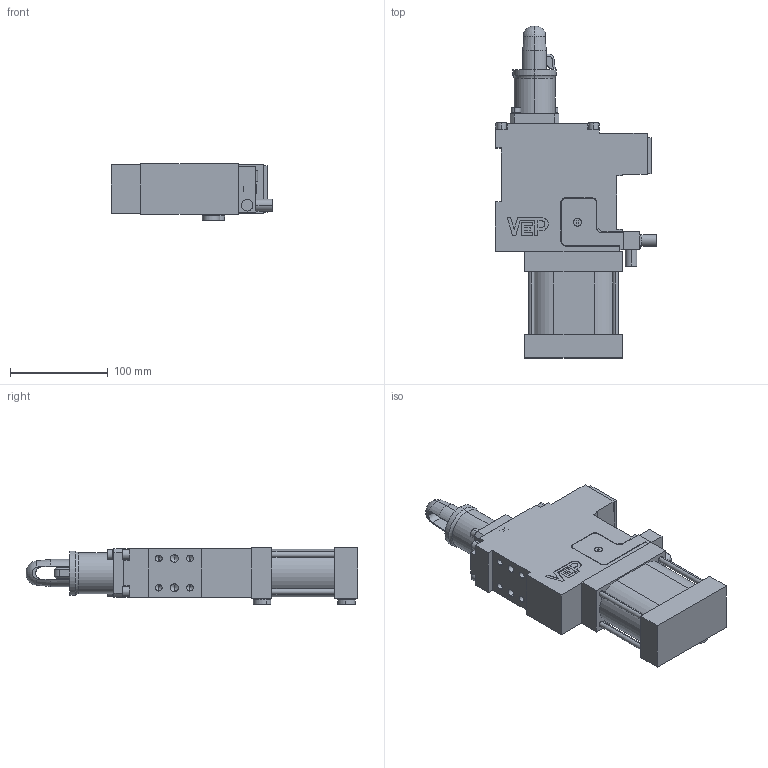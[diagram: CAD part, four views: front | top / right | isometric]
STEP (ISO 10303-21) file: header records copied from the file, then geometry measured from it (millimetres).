
FILE_DESCRIPTION (( 'STEP AP214' ), '1' );
FILE_NAME ('dca63lavi_00000xxx.STEP', '2024-11-14T07:27:26', ( '' ), ( '' ), 'SwSTEP 2.0', 'SolidWorks 2024', '' );
FILE_SCHEMA (( 'AUTOMOTIVE_DESIGN' ));
Length unit declared in the file: millimetre
Products named in the file (11): riparo_fc_dca63v; vite_tcei_m6x18_din912_1_371; gruppo_montante_dca63la_b_v; rondella tappo G1_4; rondella_schnorr_m6_1_248; dca63lavi_00000xxx; Tassello_Ø30x55_dca63v; blocchetto_p&f_0; Gancio_A_dca63vl_10526; Perno(z)_Ø28x110_dca63v_09775; tappo cil G1_4 din908
Assembly tree (14 placements, depth 2):
  dca63lavi_00000xxx
    gruppo_montante_dca63la_b_v
    riparo_fc_dca63v
    blocchetto_p&f_0
    rondella tappo G1_4  x2
    tappo cil G1_4 din908  x2
    Perno(z)_Ø28x110_dca63v_09775
    Tassello_Ø30x55_dca63v
    rondella_schnorr_m6_1_248  x2
    vite_tcei_m6x18_din912_1_371  x2
    Gancio_A_dca63vl_10526
Bounding box: 165 x 340.15 x 58 mm (x, y, z)
Volume: 1287631.9 mm3; surface area: 198252.9 mm2
Topology: 14 solids, 14 shells, 719 faces, 1850 edges, 1166 vertices
Faces by surface type: plane 396, cylinder 202, cone 92, torus 16, bspline 13
Entity records: 21998 total; most frequent: CARTESIAN_POINT 4830, ORIENTED_EDGE 3372, DIRECTION 3356, EDGE_CURVE 1686, VECTOR 1140, LINE 1140, AXIS2_PLACEMENT_3D 1108, VERTEX_POINT 1091
